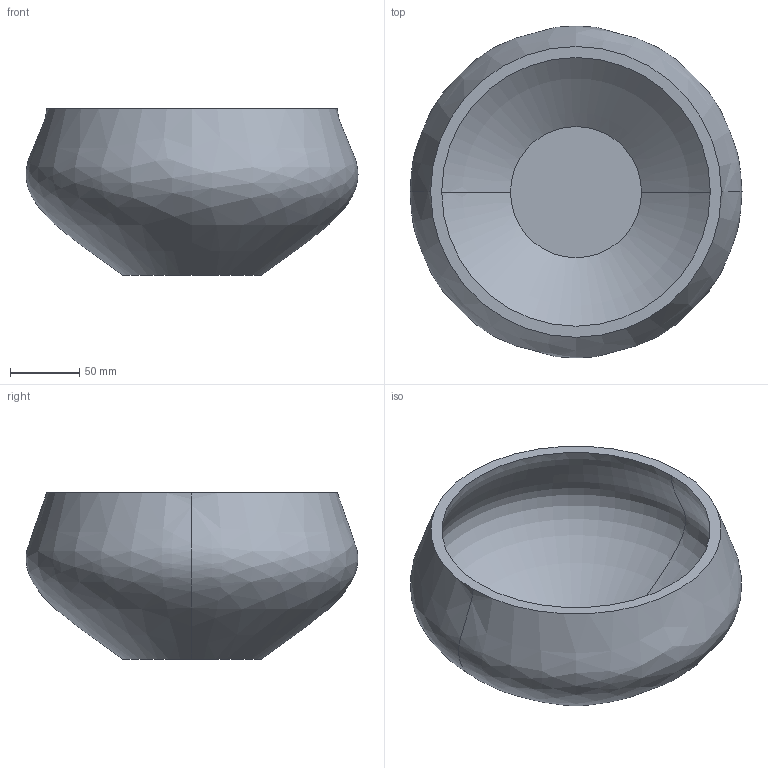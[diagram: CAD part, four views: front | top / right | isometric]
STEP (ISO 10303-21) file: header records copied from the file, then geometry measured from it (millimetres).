
FILE_DESCRIPTION(/* description */ (''),/* implementation_level */ '2;1');
FILE_NAME(/* name */ '21',/* time_stamp */ '2026-07-06T12:08:02+02:00',/* author */ (''),/* organization */ (''),/* preprocessor_version */ 'ST-DEVELOPER v19.2',/* originating_system */ 'Rhino 8.32',/* authorisation */ '');
FILE_SCHEMA (('CONFIG_CONTROL_DESIGN'));
Length unit declared in the file: millimetre
Products named in the file (1): Document
Bounding box: 239.74 x 239.72 x 120 mm (x, y, z)
Volume: 765246.9 mm3; surface area: 196595.6 mm2
Topology: 1 solids, 1 shells, 7 faces, 12 edges, 8 vertices
Faces by surface type: bspline 4, plane 3
Entity records: 3994 total; most frequent: CARTESIAN_POINT 3784, ORIENTED_EDGE 24, DIRECTION 23, AXIS2_PLACEMENT_3D 13, EDGE_CURVE 12, EDGE_LOOP 8, TRIMMED_CURVE 8, CIRCLE 8
